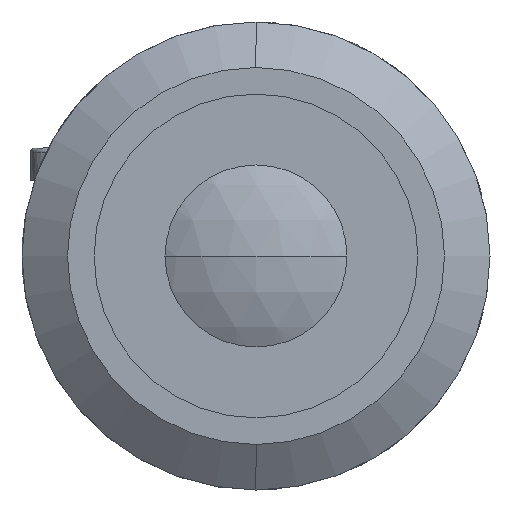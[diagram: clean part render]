
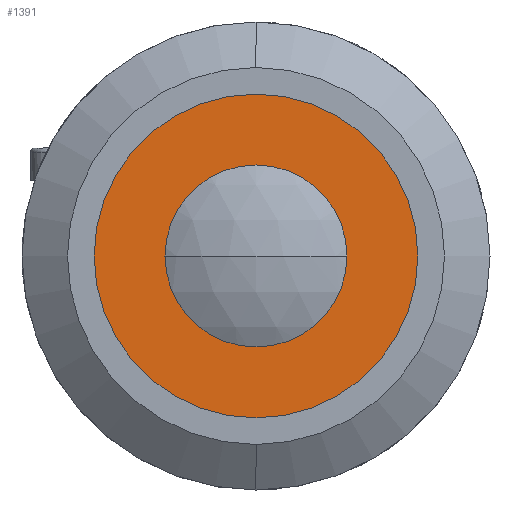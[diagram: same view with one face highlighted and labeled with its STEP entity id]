
A CAD part, left-side view. The second image highlights one B-rep face of the part: STEP entity #1391.
In plain terms, the highlighted planar face has unit normal (-1, 0, 0).
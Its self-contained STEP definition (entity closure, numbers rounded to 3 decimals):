
#37 = EDGE_CURVE ( 'NONE', #3497, #2050, #503, .T. ) ;
#196 = CARTESIAN_POINT ( 'NONE',  ( 3.8, 0., 0. ) ) ;
#221 = EDGE_CURVE ( 'NONE', #2434, #3319, #307, .T. ) ;
#307 = CIRCLE ( 'NONE', #1420, 7. ) ;
#416 = EDGE_LOOP ( 'NONE', ( #818, #855 ) ) ;
#491 = DIRECTION ( 'NONE',  ( 0., 0., 1. ) ) ;
#503 = CIRCLE ( 'NONE', #1688, 13. ) ;
#513 = EDGE_CURVE ( 'NONE', #2050, #3497, #3357, .T. ) ;
#556 = AXIS2_PLACEMENT_3D ( 'NONE', #1441, #3301, #1730 ) ;
#650 = DIRECTION ( 'NONE',  ( 0., 0., 1. ) ) ;
#673 = DIRECTION ( 'NONE',  ( -1., 0., 0. ) ) ;
#689 = DIRECTION ( 'NONE',  ( 1., 0., 0. ) ) ;
#694 = CARTESIAN_POINT ( 'NONE',  ( 3.8, 0., 0. ) ) ;
#695 = CARTESIAN_POINT ( 'NONE',  ( 3.8, 0., -7. ) ) ;
#818 = ORIENTED_EDGE ( 'NONE', *, *, #852, .F. ) ;
#852 = EDGE_CURVE ( 'NONE', #3319, #2434, #2988, .T. ) ;
#855 = ORIENTED_EDGE ( 'NONE', *, *, #221, .F. ) ;
#906 = ORIENTED_EDGE ( 'NONE', *, *, #513, .T. ) ;
#953 = ORIENTED_EDGE ( 'NONE', *, *, #37, .T. ) ;
#1031 = CARTESIAN_POINT ( 'NONE',  ( 3.8, 0., 7. ) ) ;
#1112 = AXIS2_PLACEMENT_3D ( 'NONE', #196, #2202, #491 ) ;
#1236 = CARTESIAN_POINT ( 'NONE',  ( 3.8, 13., 0. ) ) ;
#1391 = ADVANCED_FACE ( 'NONE', ( #2602, #2570 ), #2371, .F. ) ;
#1396 = DIRECTION ( 'NONE',  ( -1., 0., 0. ) ) ;
#1420 = AXIS2_PLACEMENT_3D ( 'NONE', #3270, #1396, #3493 ) ;
#1441 = CARTESIAN_POINT ( 'NONE',  ( 3.8, 0., 0. ) ) ;
#1688 = AXIS2_PLACEMENT_3D ( 'NONE', #694, #673, #650 ) ;
#1730 = DIRECTION ( 'NONE',  ( 0., 0., 1. ) ) ;
#2050 = VERTEX_POINT ( 'NONE', #3443 ) ;
#2144 = CARTESIAN_POINT ( 'NONE',  ( 3.8, 0., -13. ) ) ;
#2202 = DIRECTION ( 'NONE',  ( -1., 0., 0. ) ) ;
#2371 = PLANE ( 'NONE',  #2934 ) ;
#2434 = VERTEX_POINT ( 'NONE', #695 ) ;
#2570 = FACE_OUTER_BOUND ( 'NONE', #2978, .T. ) ;
#2602 = FACE_BOUND ( 'NONE', #416, .T. ) ;
#2649 = DIRECTION ( 'NONE',  ( 0., 0., -1. ) ) ;
#2934 = AXIS2_PLACEMENT_3D ( 'NONE', #1236, #689, #2649 ) ;
#2978 = EDGE_LOOP ( 'NONE', ( #906, #953 ) ) ;
#2988 = CIRCLE ( 'NONE', #556, 7. ) ;
#3270 = CARTESIAN_POINT ( 'NONE',  ( 3.8, 0., 0. ) ) ;
#3301 = DIRECTION ( 'NONE',  ( -1., 0., 0. ) ) ;
#3319 = VERTEX_POINT ( 'NONE', #1031 ) ;
#3357 = CIRCLE ( 'NONE', #1112, 13. ) ;
#3443 = CARTESIAN_POINT ( 'NONE',  ( 3.8, 0., 13. ) ) ;
#3493 = DIRECTION ( 'NONE',  ( 0., 0., 1. ) ) ;
#3497 = VERTEX_POINT ( 'NONE', #2144 ) ;
